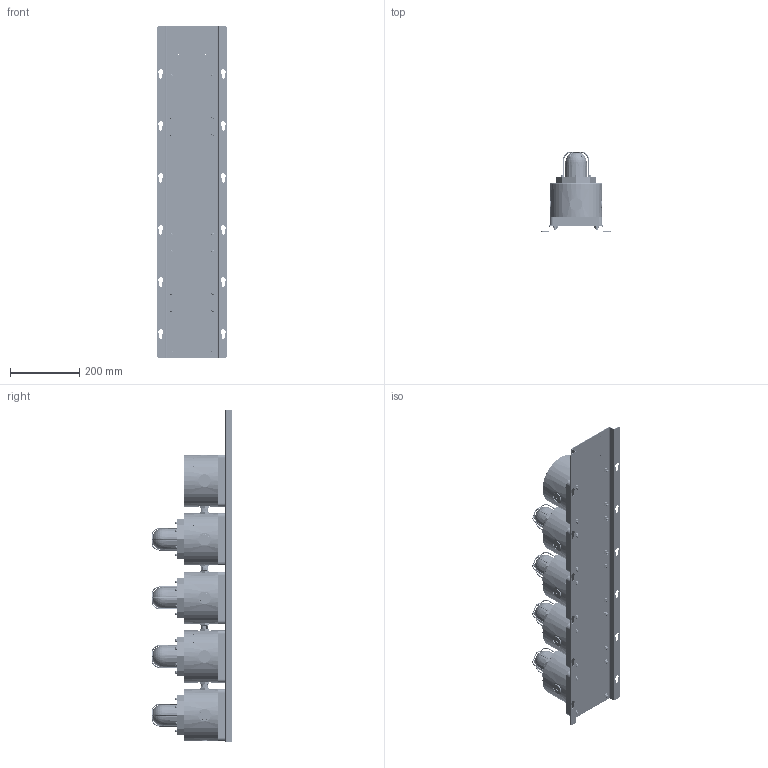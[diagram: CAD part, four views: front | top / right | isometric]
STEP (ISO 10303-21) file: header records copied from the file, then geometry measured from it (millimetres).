
FILE_DESCRIPTION((''),'2;1');
FILE_NAME('0-SL150-TYPE5_ASM','2015-12-21T',('Administrator'),(''),'PRO/ENGINEER BY PARAMETRIC TECHNOLOGY CORPORATION, 2008090','PRO/ENGINEER BY PARAMETRIC TECHNOLOGY CORPORATION, 2008090','');
FILE_SCHEMA(('CONFIG_CONTROL_DESIGN'));
Length unit declared in the file: millimetre
Products named in the file (28): 50020210261; 55060250101; 55060250102; 50060210104; 50060210201; 55060170103; 55060250108; 50060120207; TERMINAL-BASE-50000000405; TERMIAL-BASE_ASM; 50060150601; 50050280237; 55060110205; 50050110216; M4-10; M8X25; M8-NUT; 0-BC150_ASM; 55020110203; LINE-9; 50020110206-M20; 50020110207; 0-CT20_ASM; 55020210228; 55050250102; 0-JB150_ASM; 50020110229; 0-SL150-TYPE5_ASM
Assembly tree (72 placements, depth 4):
  0-SL150-TYPE5_ASM
    50020210261
    0-BC150_ASM  x4
      55060250101
      55060250102
      50060210104
      50060210201
      55060170103
      55060250108
      TERMIAL-BASE_ASM
        50060120207
        TERMINAL-BASE-50000000405
      50060150601
      50050280237
      55060110205
      50050110216
      M4-10
      M8X25
      M8-NUT
    0-CT20_ASM  x4
      55020110203
      LINE-9
      50020110206-M20
      50020110207
    55020210228
    55060110205
    0-JB150_ASM
      55060250101
      55050250102
      TERMIAL-BASE_ASM
        50060120207
        TERMINAL-BASE-50000000405
      55060110205  x2
      50050110216  x6
      M8X25  x4
      M8-NUT  x4
      50050280237
    50020110229
Bounding box: 200 x 232.25 x 957 mm (x, y, z)
Volume: 8855915.7 mm3; surface area: 2270422.3 mm2
Topology: 209 solids, 495 shells, 15353 faces, 40035 edges, 25802 vertices
Faces by surface type: plane 8679, cylinder 3494, cone 1288, bspline 998, sphere 576, torus 318
Entity records: 138554 total; most frequent: CARTESIAN_POINT 47444, ORIENTED_EDGE 19150, DIRECTION 17804, EDGE_CURVE 9688, VECTOR 6768, LINE 6768, VERTEX_POINT 6307, AXIS2_PLACEMENT_3D 5518
